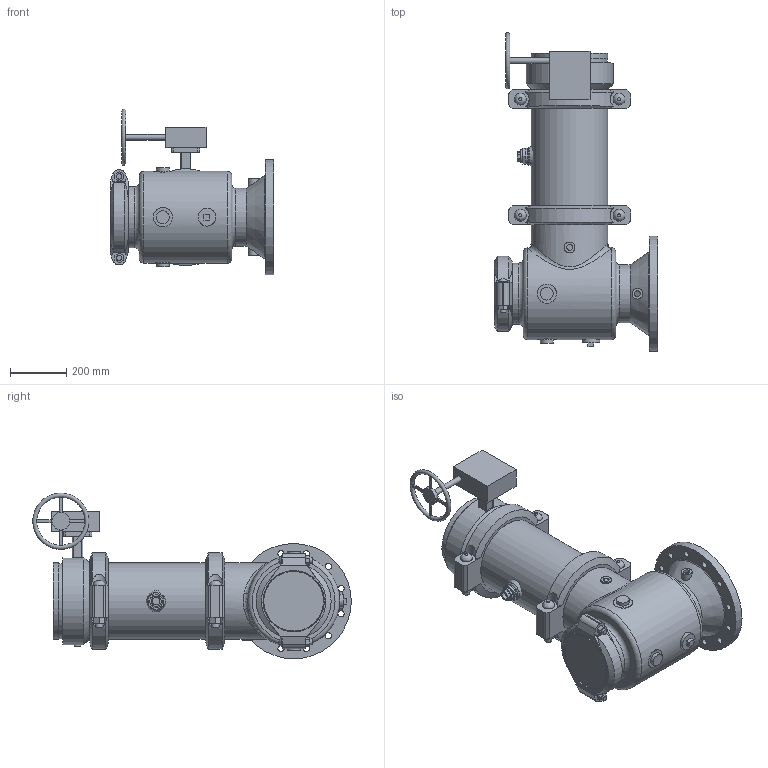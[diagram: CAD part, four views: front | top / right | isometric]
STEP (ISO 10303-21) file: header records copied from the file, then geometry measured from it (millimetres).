
FILE_DESCRIPTION(/* description */ ('VIC SVI PUMP DROP HORZ S/391 (OGSxFLG)','CAx-IF Rec.Pracs.---Representation and Presentation of Product Manufacturing Information (PMI)---4.0---2014-10-13'),/* implementation_level */ '2;1');
FILE_NAME(/* name */ 'C:\Users\kkamble\AppData\Roaming\Autodesk\ApplicationPlugins\Back Up\Victaulic_PN10_Series 391 (OGSxFLG)\Victaulic_PN10_Series 391 (OGSxFLG)_10.0x10.0 (250x250).stp',/* time_stamp */ '2020-11-26T23:45:37+05:00',/* author */ ('kkamble'),/* organization */ ('Victaulic'),/* preprocessor_version */ 'ST-DEVELOPER v17.2',/* originating_system */ 'Autodesk Inventor 2019',/* authorisation */ '');
FILE_SCHEMA (('AP242_MANAGED_MODEL_BASED_3D_ENGINEERING_MIM_LF { 1 0 10303 442 1 1 4 }'));
Length unit declared in the file: inch
Products named in the file (9): 391-10.0x10.0; 731D-10.0x10.0; 731D-10.0x10.0_1; 731D-10.0; 07-08.0; PIPE-10.0; 761-10.0; 077-10.0; 923-10.0x0.75
Assembly tree (9 placements, depth 3):
  391-10.0x10.0
    731D-10.0x10.0
      731D-10.0x10.0_1
      731D-10.0
      07-08.0
    PIPE-10.0
    761-10.0
    077-10.0  x2
    923-10.0x0.75
Bounding box: 584.2 x 1137.39 x 591.29 mm (x, y, z)
Volume: 33693412.9 mm3; surface area: 3460542.7 mm2
Topology: 8 solids, 15 shells, 451 faces, 1133 edges, 777 vertices
Faces by surface type: plane 249, cylinder 163, cone 19, torus 10, bspline 8, sphere 2
Full cylindrical faces by diameter (mm): 10.922 x4, 12.7 x1, 19.05 x4, 20.066 x1, 20.955 x4, 21.336 x1, 21.996 x12, 22.86 x1, 25.4 x8, 26.67 x1, 27.432 x4, 32.537 x2, 38.1 x4, 45.72 x3, 45.974 x2, 55.626 x1, 63.079 x1, 63.5 x1, 70.104 x1, 76.2 x1, 177.8 x1, 179.578 x1, 193.802 x1, 206.375 x1, 206.502 x1, 214.401 x2, 219.075 x5, 246.888 x1, 254 x1, 254.508 x2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
Entity records: 14215 total; most frequent: CARTESIAN_POINT 3623, DIRECTION 2150, ORIENTED_EDGE 1976, EDGE_CURVE 988, AXIS2_PLACEMENT_3D 842, VERTEX_POINT 679, EDGE_LOOP 507, LINE 466
